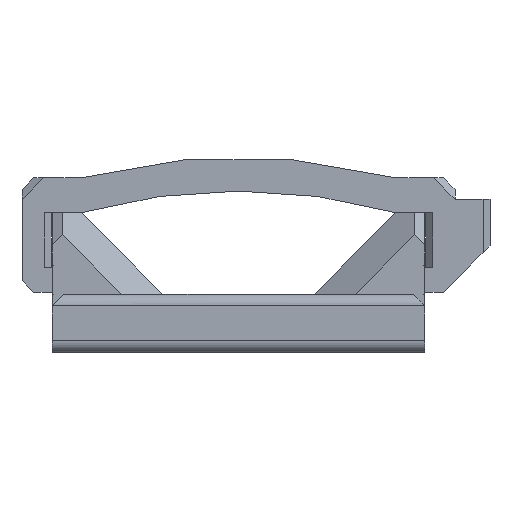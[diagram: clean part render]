
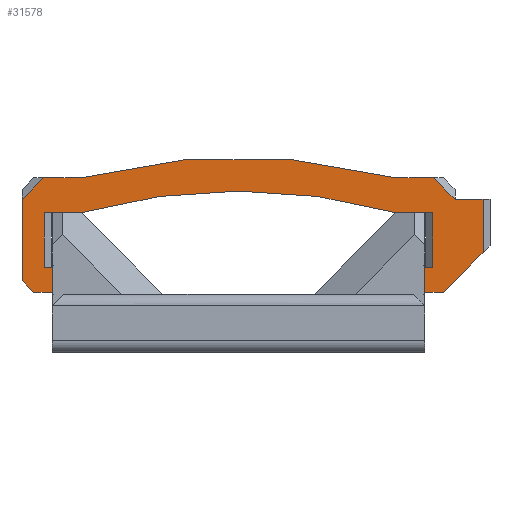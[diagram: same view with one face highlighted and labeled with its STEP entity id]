
A CAD part, front view. The second image highlights one B-rep face of the part: STEP entity #31578.
In plain terms, the highlighted planar face has unit normal (0, -1, 0).
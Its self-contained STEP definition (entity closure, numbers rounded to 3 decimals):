
#854=PLANE('',#33733);
#3778=LINE('',#48979,#7764);
#3779=LINE('',#48982,#7765);
#3780=LINE('',#48984,#7766);
#3781=LINE('',#48986,#7767);
#3782=LINE('',#48988,#7768);
#3783=LINE('',#48990,#7769);
#3784=LINE('',#48992,#7770);
#3785=LINE('',#48994,#7771);
#3786=LINE('',#48998,#7772);
#3787=LINE('',#49000,#7773);
#3788=LINE('',#49002,#7774);
#3789=LINE('',#49004,#7775);
#3790=LINE('',#49006,#7776);
#3791=LINE('',#49008,#7777);
#3792=LINE('',#49010,#7778);
#3793=LINE('',#49012,#7779);
#3794=LINE('',#49014,#7780);
#3795=LINE('',#49016,#7781);
#3796=LINE('',#49018,#7782);
#3797=LINE('',#49021,#7783);
#7764=VECTOR('',#39405,10.);
#7765=VECTOR('',#39408,10.);
#7766=VECTOR('',#39409,10.);
#7767=VECTOR('',#39410,10.);
#7768=VECTOR('',#39411,10.);
#7769=VECTOR('',#39412,10.);
#7770=VECTOR('',#39413,10.);
#7771=VECTOR('',#39414,10.);
#7772=VECTOR('',#39417,10.);
#7773=VECTOR('',#39418,10.);
#7774=VECTOR('',#39419,10.);
#7775=VECTOR('',#39420,10.);
#7776=VECTOR('',#39421,10.);
#7777=VECTOR('',#39422,10.);
#7778=VECTOR('',#39423,10.);
#7779=VECTOR('',#39424,10.);
#7780=VECTOR('',#39425,10.);
#7781=VECTOR('',#39426,10.);
#7782=VECTOR('',#39427,10.);
#7783=VECTOR('',#39430,10.);
#10888=FACE_OUTER_BOUND('',#12660,.T.);
#12660=EDGE_LOOP('',(#26507,#26508,#26509,#26510,#26511,#26512,#26513,#26514,
#26515,#26516,#26517,#26518,#26519,#26520,#26521,#26522,#26523,#26524,#26525,
#26526,#26527,#26528));
#13717=CIRCLE('',#33734,50.);
#13718=CIRCLE('',#33735,52.895);
#15410=VERTEX_POINT('',#48973);
#15412=VERTEX_POINT('',#48977);
#15413=VERTEX_POINT('',#48981);
#15414=VERTEX_POINT('',#48983);
#15415=VERTEX_POINT('',#48985);
#15416=VERTEX_POINT('',#48987);
#15417=VERTEX_POINT('',#48989);
#15418=VERTEX_POINT('',#48991);
#15419=VERTEX_POINT('',#48993);
#15420=VERTEX_POINT('',#48995);
#15421=VERTEX_POINT('',#48997);
#15422=VERTEX_POINT('',#48999);
#15423=VERTEX_POINT('',#49001);
#15424=VERTEX_POINT('',#49003);
#15425=VERTEX_POINT('',#49005);
#15426=VERTEX_POINT('',#49007);
#15427=VERTEX_POINT('',#49009);
#15428=VERTEX_POINT('',#49011);
#15429=VERTEX_POINT('',#49013);
#15430=VERTEX_POINT('',#49015);
#15431=VERTEX_POINT('',#49017);
#15432=VERTEX_POINT('',#49019);
#19330=EDGE_CURVE('',#15410,#15412,#3778,.T.);
#19331=EDGE_CURVE('',#15413,#15412,#3779,.T.);
#19332=EDGE_CURVE('',#15414,#15413,#3780,.T.);
#19333=EDGE_CURVE('',#15415,#15414,#3781,.T.);
#19334=EDGE_CURVE('',#15415,#15416,#3782,.T.);
#19335=EDGE_CURVE('',#15417,#15416,#3783,.T.);
#19336=EDGE_CURVE('',#15417,#15418,#3784,.T.);
#19337=EDGE_CURVE('',#15419,#15418,#3785,.T.);
#19338=EDGE_CURVE('',#15420,#15419,#13717,.T.);
#19339=EDGE_CURVE('',#15421,#15420,#3786,.T.);
#19340=EDGE_CURVE('',#15421,#15422,#3787,.T.);
#19341=EDGE_CURVE('',#15423,#15422,#3788,.T.);
#19342=EDGE_CURVE('',#15423,#15424,#3789,.T.);
#19343=EDGE_CURVE('',#15425,#15424,#3790,.T.);
#19344=EDGE_CURVE('',#15426,#15425,#3791,.T.);
#19345=EDGE_CURVE('',#15426,#15427,#3792,.T.);
#19346=EDGE_CURVE('',#15428,#15427,#3793,.T.);
#19347=EDGE_CURVE('',#15429,#15428,#3794,.T.);
#19348=EDGE_CURVE('',#15429,#15430,#3795,.T.);
#19349=EDGE_CURVE('',#15431,#15430,#3796,.T.);
#19350=EDGE_CURVE('',#15432,#15431,#13718,.T.);
#19351=EDGE_CURVE('',#15410,#15432,#3797,.T.);
#26507=ORIENTED_EDGE('',*,*,#19330,.T.);
#26508=ORIENTED_EDGE('',*,*,#19331,.F.);
#26509=ORIENTED_EDGE('',*,*,#19332,.F.);
#26510=ORIENTED_EDGE('',*,*,#19333,.F.);
#26511=ORIENTED_EDGE('',*,*,#19334,.T.);
#26512=ORIENTED_EDGE('',*,*,#19335,.F.);
#26513=ORIENTED_EDGE('',*,*,#19336,.T.);
#26514=ORIENTED_EDGE('',*,*,#19337,.F.);
#26515=ORIENTED_EDGE('',*,*,#19338,.F.);
#26516=ORIENTED_EDGE('',*,*,#19339,.F.);
#26517=ORIENTED_EDGE('',*,*,#19340,.T.);
#26518=ORIENTED_EDGE('',*,*,#19341,.F.);
#26519=ORIENTED_EDGE('',*,*,#19342,.T.);
#26520=ORIENTED_EDGE('',*,*,#19343,.F.);
#26521=ORIENTED_EDGE('',*,*,#19344,.F.);
#26522=ORIENTED_EDGE('',*,*,#19345,.T.);
#26523=ORIENTED_EDGE('',*,*,#19346,.F.);
#26524=ORIENTED_EDGE('',*,*,#19347,.F.);
#26525=ORIENTED_EDGE('',*,*,#19348,.T.);
#26526=ORIENTED_EDGE('',*,*,#19349,.F.);
#26527=ORIENTED_EDGE('',*,*,#19350,.F.);
#26528=ORIENTED_EDGE('',*,*,#19351,.F.);
#31578=ADVANCED_FACE('',(#10888),#854,.F.);
#33733=AXIS2_PLACEMENT_3D('',#48980,#39406,#39407);
#33734=AXIS2_PLACEMENT_3D('',#48996,#39415,#39416);
#33735=AXIS2_PLACEMENT_3D('',#49020,#39428,#39429);
#39405=DIRECTION('',(-0.707,0.,-0.707));
#39406=DIRECTION('center_axis',(0.,1.,0.));
#39407=DIRECTION('ref_axis',(1.,0.,0.));
#39408=DIRECTION('',(0.,0.,1.));
#39409=DIRECTION('',(-0.707,0.,0.707));
#39410=DIRECTION('',(-1.,0.,0.));
#39411=DIRECTION('',(0.,0.,1.));
#39412=DIRECTION('',(1.,0.,0.));
#39413=DIRECTION('',(0.,0.,1.));
#39414=DIRECTION('',(-1.,0.,0.));
#39415=DIRECTION('center_axis',(0.,-1.,0.));
#39416=DIRECTION('ref_axis',(-0.27,0.,0.963));
#39417=DIRECTION('',(-1.,0.,0.));
#39418=DIRECTION('',(0.,0.,-1.));
#39419=DIRECTION('',(1.,0.,0.));
#39420=DIRECTION('',(0.,0.,-1.));
#39421=DIRECTION('',(-1.,0.,0.));
#39422=DIRECTION('',(-0.707,0.,-0.707));
#39423=DIRECTION('',(0.,0.,1.));
#39424=DIRECTION('',(1.,0.,0.));
#39425=DIRECTION('',(0.,0.,-1.));
#39426=DIRECTION('',(-0.707,0.,0.707));
#39427=DIRECTION('',(1.,0.,0.));
#39428=DIRECTION('center_axis',(0.,1.,0.));
#39429=DIRECTION('ref_axis',(-0.255,0.,0.967));
#39430=DIRECTION('',(1.,0.,0.));
#48973=CARTESIAN_POINT('',(-16.751,-18.85,25.));
#48977=CARTESIAN_POINT('',(-18.6,-18.85,23.151));
#48979=CARTESIAN_POINT('',(-13.913,-18.85,27.838));
#48980=CARTESIAN_POINT('Origin',(1.5,-18.85,20.951));
#48981=CARTESIAN_POINT('',(-18.6,-18.85,16.15));
#48982=CARTESIAN_POINT('',(-18.6,-18.85,15.15));
#48983=CARTESIAN_POINT('',(-17.6,-18.85,15.15));
#48984=CARTESIAN_POINT('',(-17.6,-18.85,15.15));
#48985=CARTESIAN_POINT('',(-15.8,-18.85,15.15));
#48986=CARTESIAN_POINT('',(-15.2,-18.85,15.15));
#48987=CARTESIAN_POINT('',(-15.8,-18.85,17.3));
#48988=CARTESIAN_POINT('',(-15.8,-18.85,19.037));
#48989=CARTESIAN_POINT('',(-16.7,-18.85,17.3));
#48990=CARTESIAN_POINT('',(-15.376,-18.85,17.3));
#48991=CARTESIAN_POINT('',(-16.7,-18.85,22.));
#48992=CARTESIAN_POINT('',(-16.7,-18.85,21.475));
#48993=CARTESIAN_POINT('',(-13.5,-18.85,22.));
#48994=CARTESIAN_POINT('',(-16.1,-18.85,22.));
#48995=CARTESIAN_POINT('',(13.5,-18.85,22.));
#48996=CARTESIAN_POINT('Origin',(0.,-18.85,-26.143));
#48997=CARTESIAN_POINT('',(16.7,-18.85,22.));
#48998=CARTESIAN_POINT('',(16.1,-18.85,22.));
#48999=CARTESIAN_POINT('',(16.7,-18.85,17.3));
#49000=CARTESIAN_POINT('',(16.7,-18.85,19.125));
#49001=CARTESIAN_POINT('',(15.8,-18.85,17.3));
#49002=CARTESIAN_POINT('',(15.376,-18.85,17.3));
#49003=CARTESIAN_POINT('',(15.8,-18.85,15.15));
#49004=CARTESIAN_POINT('',(15.8,-18.85,18.05));
#49005=CARTESIAN_POINT('',(17.6,-18.85,15.15));
#49006=CARTESIAN_POINT('',(15.2,-18.85,15.15));
#49007=CARTESIAN_POINT('',(21.,-18.85,18.55));
#49008=CARTESIAN_POINT('',(18.6,-18.85,16.15));
#49009=CARTESIAN_POINT('',(21.,-18.85,23.15));
#49010=CARTESIAN_POINT('',(21.,-18.85,22.05));
#49011=CARTESIAN_POINT('',(18.6,-18.85,23.15));
#49012=CARTESIAN_POINT('',(19.725,-18.85,23.15));
#49013=CARTESIAN_POINT('',(18.6,-18.85,23.151));
#49014=CARTESIAN_POINT('',(18.6,-18.85,15.15));
#49015=CARTESIAN_POINT('',(16.751,-18.85,25.));
#49016=CARTESIAN_POINT('',(14.163,-18.85,27.588));
#49017=CARTESIAN_POINT('',(13.5,-18.85,25.));
#49018=CARTESIAN_POINT('',(13.5,-18.85,25.));
#49019=CARTESIAN_POINT('',(-13.5,-18.85,25.));
#49020=CARTESIAN_POINT('Origin',(0.,-18.85,-26.143));
#49021=CARTESIAN_POINT('',(-13.5,-18.85,25.));
